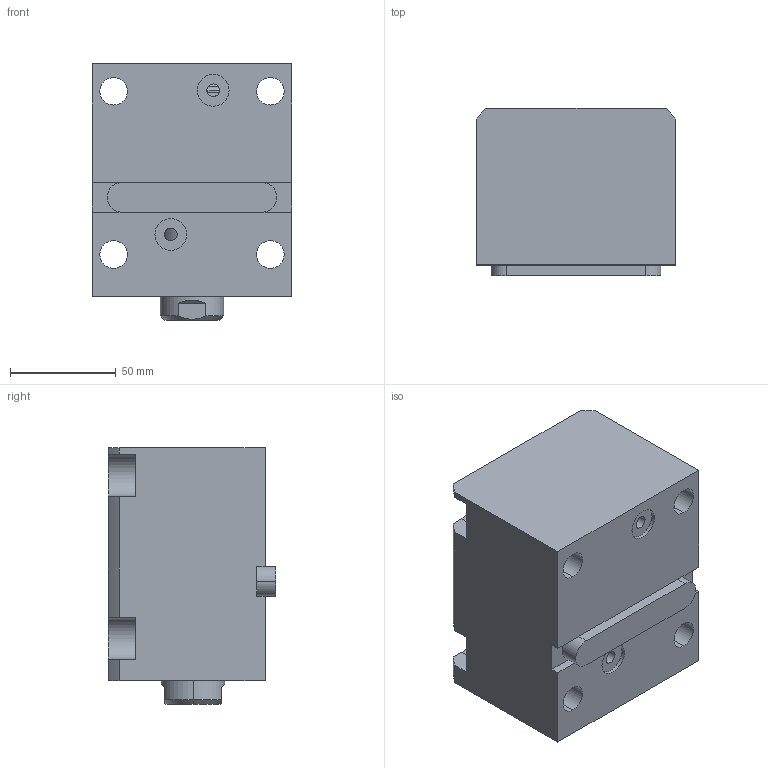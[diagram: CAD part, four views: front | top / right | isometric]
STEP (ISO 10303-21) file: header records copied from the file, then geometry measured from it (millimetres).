
FILE_DESCRIPTION (( 'STEP AP203' ), '1' );
FILE_NAME ('CHTB-LAM50-50N.STEP', '2018-05-23T10:31:20', ( '' ), ( '' ), 'SwSTEP 2.0', 'SolidWorks 2015', '' );
FILE_SCHEMA (( 'CONFIG_CONTROL_DESIGN' ));
Length unit declared in the file: millimetre
Products named in the file (4): 掛极LAM50-50N; CHTB-LAM50-50N; CHTM-SDMA50QG; 活塞杆LAM50-50N
Assembly tree (3 placements, depth 2):
  CHTB-LAM50-50N
    掛极LAM50-50N
    活塞杆LAM50-50N
    CHTM-SDMA50QG
Bounding box: 94 x 79 x 121 mm (x, y, z)
Volume: 647670.8 mm3; surface area: 112223.6 mm2
Topology: 3 solids, 3 shells, 192 faces, 524 edges, 347 vertices
Faces by surface type: cylinder 96, plane 51, torus 16, cone 15, bspline 14
Entity records: 11011 total; most frequent: CARTESIAN_POINT 5956, ORIENTED_EDGE 1036, DIRECTION 908, EDGE_CURVE 518, AXIS2_PLACEMENT_3D 356, VERTEX_POINT 347, EDGE_LOOP 221, LINE 196
